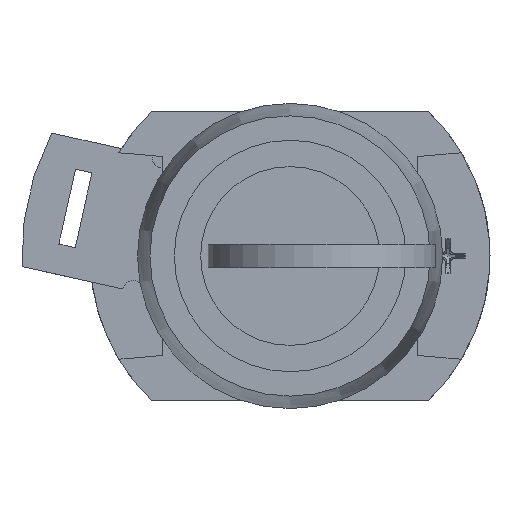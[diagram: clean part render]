
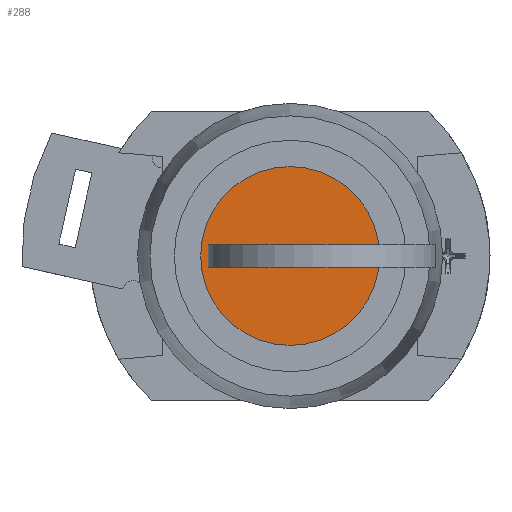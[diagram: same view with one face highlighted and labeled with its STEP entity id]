
A CAD part, left-side view. The second image highlights one B-rep face of the part: STEP entity #288.
In plain terms, the highlighted planar face has unit normal (-1, 0, 0).
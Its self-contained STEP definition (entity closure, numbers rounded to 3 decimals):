
#45 = EDGE_CURVE ( 'NONE', #3794, #3791, #3147, .T. ) ;
#46 = EDGE_CURVE ( 'NONE', #3791, #3792, #3119, .T. ) ;
#47 = EDGE_CURVE ( 'NONE', #3792, #3793, #3150, .T. ) ;
#49 = EDGE_CURVE ( 'NONE', #3793, #3794, #3154, .T. ) ;
#76 = EDGE_CURVE ( 'NONE', #11199, #11199, #3189, .T. ) ;
#288 = ADVANCED_FACE ( 'NONE', ( #6161, #6143 ), #5281, .T. ) ;
#357 = ORIENTED_EDGE ( 'NONE', *, *, #49, .T. ) ;
#358 = ORIENTED_EDGE ( 'NONE', *, *, #45, .T. ) ;
#359 = ORIENTED_EDGE ( 'NONE', *, *, #46, .T. ) ;
#360 = ORIENTED_EDGE ( 'NONE', *, *, #47, .T. ) ;
#361 = ORIENTED_EDGE ( 'NONE', *, *, #76, .F. ) ;
#1636 = EDGE_LOOP ( 'NONE', ( #357, #358, #359, #360 ) ) ;
#1640 = EDGE_LOOP ( 'NONE', ( #361 ) ) ;
#3119 = LINE ( 'NONE', #3920, #3149 ) ;
#3134 = VECTOR ( 'NONE', #3922, 1000. ) ;
#3147 = LINE ( 'NONE', #3883, #3134 ) ;
#3149 = VECTOR ( 'NONE', #3924, 1000. ) ;
#3150 = LINE ( 'NONE', #3925, #3151 ) ;
#3151 = VECTOR ( 'NONE', #3926, 1000. ) ;
#3154 = LINE ( 'NONE', #3929, #3155 ) ;
#3155 = VECTOR ( 'NONE', #3930, 1000. ) ;
#3189 = CIRCLE ( 'NONE', #3718, 8.5 ) ;
#3718 = AXIS2_PLACEMENT_3D ( 'NONE', #4000, #4005, #4006 ) ;
#3791 = VERTEX_POINT ( 'NONE', #10616 ) ;
#3792 = VERTEX_POINT ( 'NONE', #10617 ) ;
#3793 = VERTEX_POINT ( 'NONE', #10618 ) ;
#3794 = VERTEX_POINT ( 'NONE', #10619 ) ;
#3883 = CARTESIAN_POINT ( 'NONE',  ( -15., -7., 0. ) ) ;
#3920 = CARTESIAN_POINT ( 'NONE',  ( -15., 4.25, -1.1 ) ) ;
#3922 = DIRECTION ( 'NONE',  ( 0., 0., -1. ) ) ;
#3924 = DIRECTION ( 'NONE',  ( 0., 1., 0. ) ) ;
#3925 = CARTESIAN_POINT ( 'NONE',  ( -15., 2., 0. ) ) ;
#3926 = DIRECTION ( 'NONE',  ( 0., 0., 1. ) ) ;
#3929 = CARTESIAN_POINT ( 'NONE',  ( -15., 4.25, 1.1 ) ) ;
#3930 = DIRECTION ( 'NONE',  ( 0., -1., 0. ) ) ;
#4000 = CARTESIAN_POINT ( 'NONE',  ( -15., 0., 0. ) ) ;
#4005 = DIRECTION ( 'NONE',  ( 1., 0., 0. ) ) ;
#4006 = DIRECTION ( 'NONE',  ( 0., 0., -1. ) ) ;
#4473 = AXIS2_PLACEMENT_3D ( 'NONE', #5273, #5282, #5283 ) ;
#5273 = CARTESIAN_POINT ( 'NONE',  ( -15., 4.25, 0. ) ) ;
#5281 = PLANE ( 'NONE',  #4473 ) ;
#5282 = DIRECTION ( 'NONE',  ( -1., 0., 0. ) ) ;
#5283 = DIRECTION ( 'NONE',  ( 0., 0., 1. ) ) ;
#6143 = FACE_OUTER_BOUND ( 'NONE', #1640, .T. ) ;
#6161 = FACE_BOUND ( 'NONE', #1636, .T. ) ;
#10616 = CARTESIAN_POINT ( 'NONE',  ( -15., -7., -1.1 ) ) ;
#10617 = CARTESIAN_POINT ( 'NONE',  ( -15., 2., -1.1 ) ) ;
#10618 = CARTESIAN_POINT ( 'NONE',  ( -15., 2., 1.1 ) ) ;
#10619 = CARTESIAN_POINT ( 'NONE',  ( -15., -7., 1.1 ) ) ;
#11199 = VERTEX_POINT ( 'NONE', #11204 ) ;
#11204 = CARTESIAN_POINT ( 'NONE',  ( -15., 0., -8.5 ) ) ;
